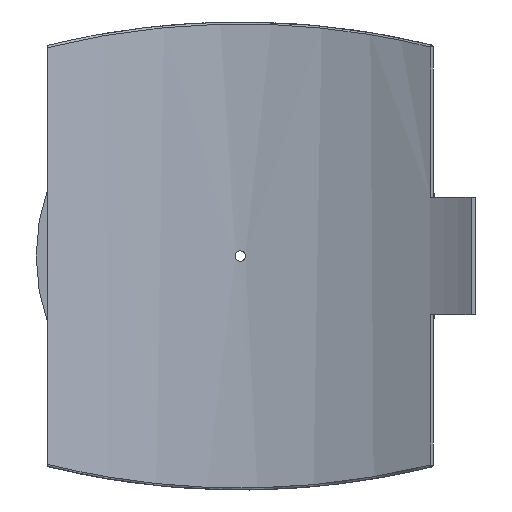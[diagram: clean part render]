
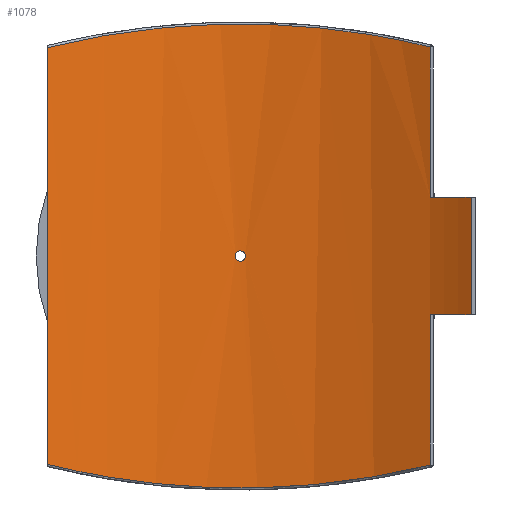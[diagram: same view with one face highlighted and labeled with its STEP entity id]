
A CAD part, front view. The second image highlights one B-rep face of the part: STEP entity #1078.
In plain terms, the highlighted cylindrical face has radius 400 mm (diameter 800 mm), a partial arc.
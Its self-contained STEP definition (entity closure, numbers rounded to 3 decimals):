
#55=FACE_BOUND('',#355,.T.);
#109=B_SPLINE_CURVE_WITH_KNOTS('',3,(#2213,#2214,#2215,#2216,#2217,#2218,
#2219,#2220,#2221,#2222),.UNSPECIFIED.,.F.,.F.,(4,1,1,1,1,1,1,4),(-45.909,
-40.108,-34.307,-28.506,-22.705,
-16.904,-11.103,-5.302),.UNSPECIFIED.);
#110=B_SPLINE_CURVE_WITH_KNOTS('',3,(#2231,#2232,#2233,#2234,#2235,#2236,
#2237,#2238,#2239,#2240),.UNSPECIFIED.,.F.,.F.,(4,1,1,1,1,1,1,4),(-42.171,
-36.37,-30.569,-24.768,-18.967,
-13.166,-7.364,-1.563),.UNSPECIFIED.);
#111=B_SPLINE_CURVE_WITH_KNOTS('',3,(#2243,#2244,#2245,#2246,#2247,#2248,
#2249,#2250,#2251,#2252),.UNSPECIFIED.,.F.,.F.,(4,2,2,2,4),(0.,0.196,
0.392,0.588,0.784),.UNSPECIFIED.);
#112=B_SPLINE_CURVE_WITH_KNOTS('',3,(#2253,#2254,#2255,#2256,#2257,#2258,
#2259,#2260,#2261,#2262,#2263,#2264,#2265,#2266,#2267,#2268,#2269,#2270,
#2271,#2272,#2273,#2274,#2275,#2276,#2277,#2278),.UNSPECIFIED.,.F.,.F.,
(4,2,2,2,2,2,2,2,2,2,2,2,4),(0.784,0.979,1.175,
1.371,1.567,1.763,1.959,2.155,
2.351,2.546,2.742,2.938,3.134),
 .UNSPECIFIED.);
#133=LINE('',#1615,#184);
#144=LINE('',#1902,#195);
#151=LINE('',#2227,#202);
#152=LINE('',#2230,#203);
#184=VECTOR('',#1292,10.);
#195=VECTOR('',#1331,10.);
#202=VECTOR('',#1368,10.);
#203=VECTOR('',#1371,10.);
#244=CYLINDRICAL_SURFACE('',#1175,400.);
#288=FACE_OUTER_BOUND('',#354,.T.);
#354=EDGE_LOOP('',(#839,#840,#841,#842,#843,#844,#845,#846));
#355=EDGE_LOOP('',(#847,#848));
#449=CIRCLE('',#1176,400.);
#450=CIRCLE('',#1177,400.);
#510=VERTEX_POINT('',#1606);
#513=VERTEX_POINT('',#1613);
#533=VERTEX_POINT('',#1895);
#536=VERTEX_POINT('',#1900);
#549=VERTEX_POINT('',#2199);
#550=VERTEX_POINT('',#2224);
#551=VERTEX_POINT('',#2226);
#552=VERTEX_POINT('',#2229);
#553=VERTEX_POINT('',#2241);
#554=VERTEX_POINT('',#2242);
#613=EDGE_CURVE('',#513,#510,#133,.T.);
#643=EDGE_CURVE('',#536,#533,#144,.T.);
#666=EDGE_CURVE('',#549,#536,#109,.T.);
#667=EDGE_CURVE('',#550,#513,#449,.T.);
#668=EDGE_CURVE('',#550,#551,#151,.T.);
#669=EDGE_CURVE('',#533,#551,#450,.T.);
#670=EDGE_CURVE('',#552,#549,#152,.T.);
#671=EDGE_CURVE('',#510,#552,#110,.T.);
#672=EDGE_CURVE('',#553,#554,#111,.T.);
#673=EDGE_CURVE('',#554,#553,#112,.T.);
#839=ORIENTED_EDGE('',*,*,#667,.F.);
#840=ORIENTED_EDGE('',*,*,#668,.T.);
#841=ORIENTED_EDGE('',*,*,#669,.F.);
#842=ORIENTED_EDGE('',*,*,#643,.F.);
#843=ORIENTED_EDGE('',*,*,#666,.F.);
#844=ORIENTED_EDGE('',*,*,#670,.F.);
#845=ORIENTED_EDGE('',*,*,#671,.F.);
#846=ORIENTED_EDGE('',*,*,#613,.F.);
#847=ORIENTED_EDGE('',*,*,#672,.T.);
#848=ORIENTED_EDGE('',*,*,#673,.T.);
#1078=ADVANCED_FACE('',(#288,#55),#244,.F.);
#1175=AXIS2_PLACEMENT_3D('',#2223,#1364,#1365);
#1176=AXIS2_PLACEMENT_3D('',#2225,#1366,#1367);
#1177=AXIS2_PLACEMENT_3D('',#2228,#1369,#1370);
#1292=DIRECTION('',(0.,0.,-1.));
#1331=DIRECTION('',(0.,0.,-1.));
#1364=DIRECTION('center_axis',(0.,0.,1.));
#1365=DIRECTION('ref_axis',(-1.,0.,0.));
#1366=DIRECTION('center_axis',(0.,0.,1.));
#1367=DIRECTION('ref_axis',(-0.579,-0.815,0.));
#1368=DIRECTION('',(0.,0.,1.));
#1369=DIRECTION('center_axis',(0.,0.,-1.));
#1370=DIRECTION('ref_axis',(-0.579,-0.815,0.));
#1371=DIRECTION('',(0.,0.,1.));
#1606=CARTESIAN_POINT('',(190.547,351.698,-209.932));
#1613=CARTESIAN_POINT('',(190.547,351.698,-58.75));
#1615=CARTESIAN_POINT('',(190.547,351.698,0.));
#1895=CARTESIAN_POINT('',(190.547,351.698,58.75));
#1900=CARTESIAN_POINT('',(190.547,351.698,209.932));
#1902=CARTESIAN_POINT('',(190.547,351.698,0.));
#2199=CARTESIAN_POINT('',(-193.5,350.082,209.2));
#2213=CARTESIAN_POINT('Ctrl Pts',(-193.5,350.082,209.2));
#2214=CARTESIAN_POINT('Ctrl Pts',(-177.046,359.177,213.309));
#2215=CARTESIAN_POINT('Ctrl Pts',(-142.701,375.127,220.768));
#2216=CARTESIAN_POINT('Ctrl Pts',(-87.802,391.657,228.83));
#2217=CARTESIAN_POINT('Ctrl Pts',(-30.678,400.217,233.108));
#2218=CARTESIAN_POINT('Ctrl Pts',(27.228,400.468,233.234));
#2219=CARTESIAN_POINT('Ctrl Pts',(84.439,392.396,229.196));
#2220=CARTESIAN_POINT('Ctrl Pts',(139.509,376.328,221.345));
#2221=CARTESIAN_POINT('Ctrl Pts',(174.007,360.66,213.995));
#2222=CARTESIAN_POINT('Ctrl Pts',(190.547,351.698,209.932));
#2223=CARTESIAN_POINT('Origin',(0.,0.,0.));
#2224=CARTESIAN_POINT('',(231.76,326.017,-58.75));
#2225=CARTESIAN_POINT('Origin',(0.,0.,
-58.75));
#2226=CARTESIAN_POINT('',(231.76,326.017,58.75));
#2227=CARTESIAN_POINT('',(231.76,326.017,0.));
#2228=CARTESIAN_POINT('Origin',(0.,0.,
58.75));
#2229=CARTESIAN_POINT('',(-193.5,350.082,-209.2));
#2230=CARTESIAN_POINT('',(-193.5,350.082,0.));
#2231=CARTESIAN_POINT('Ctrl Pts',(190.547,351.698,-209.932));
#2232=CARTESIAN_POINT('Ctrl Pts',(174.007,360.66,-213.995));
#2233=CARTESIAN_POINT('Ctrl Pts',(139.509,376.328,-221.345));
#2234=CARTESIAN_POINT('Ctrl Pts',(84.44,392.396,-229.197));
#2235=CARTESIAN_POINT('Ctrl Pts',(27.228,400.467,-233.234));
#2236=CARTESIAN_POINT('Ctrl Pts',(-30.678,400.218,-233.108));
#2237=CARTESIAN_POINT('Ctrl Pts',(-87.802,391.656,-228.829));
#2238=CARTESIAN_POINT('Ctrl Pts',(-142.701,375.127,-220.768));
#2239=CARTESIAN_POINT('Ctrl Pts',(-177.046,359.177,-213.309));
#2240=CARTESIAN_POINT('Ctrl Pts',(-193.5,350.082,-209.2));
#2241=CARTESIAN_POINT('',(5.2,399.966,0.));
#2242=CARTESIAN_POINT('',(0.,400.,-5.2));
#2243=CARTESIAN_POINT('Ctrl Pts',(5.2,399.966,0.));
#2244=CARTESIAN_POINT('Ctrl Pts',(5.2,399.966,-0.653));
#2245=CARTESIAN_POINT('Ctrl Pts',(5.07,399.968,-1.349));
#2246=CARTESIAN_POINT('Ctrl Pts',(4.539,399.974,-2.631));
#2247=CARTESIAN_POINT('Ctrl Pts',(4.139,399.979,-3.215));
#2248=CARTESIAN_POINT('Ctrl Pts',(3.215,399.987,-4.139));
#2249=CARTESIAN_POINT('Ctrl Pts',(2.631,399.992,-4.539));
#2250=CARTESIAN_POINT('Ctrl Pts',(1.349,399.998,-5.07));
#2251=CARTESIAN_POINT('Ctrl Pts',(0.653,400.,-5.2));
#2252=CARTESIAN_POINT('Ctrl Pts',(0.,400.,-5.2));
#2253=CARTESIAN_POINT('Ctrl Pts',(0.,400.,-5.2));
#2254=CARTESIAN_POINT('Ctrl Pts',(-0.653,400.,-5.2));
#2255=CARTESIAN_POINT('Ctrl Pts',(-1.349,399.998,-5.07));
#2256=CARTESIAN_POINT('Ctrl Pts',(-2.631,399.992,-4.539));
#2257=CARTESIAN_POINT('Ctrl Pts',(-3.215,399.987,-4.139));
#2258=CARTESIAN_POINT('Ctrl Pts',(-4.139,399.979,-3.215));
#2259=CARTESIAN_POINT('Ctrl Pts',(-4.539,399.974,-2.631));
#2260=CARTESIAN_POINT('Ctrl Pts',(-5.07,399.968,-1.349));
#2261=CARTESIAN_POINT('Ctrl Pts',(-5.2,399.966,-0.653));
#2262=CARTESIAN_POINT('Ctrl Pts',(-5.2,399.966,0.653));
#2263=CARTESIAN_POINT('Ctrl Pts',(-5.07,399.968,1.349));
#2264=CARTESIAN_POINT('Ctrl Pts',(-4.539,399.974,2.631));
#2265=CARTESIAN_POINT('Ctrl Pts',(-4.139,399.979,3.215));
#2266=CARTESIAN_POINT('Ctrl Pts',(-3.215,399.987,4.139));
#2267=CARTESIAN_POINT('Ctrl Pts',(-2.631,399.992,4.539));
#2268=CARTESIAN_POINT('Ctrl Pts',(-1.349,399.998,5.07));
#2269=CARTESIAN_POINT('Ctrl Pts',(-0.653,400.,5.2));
#2270=CARTESIAN_POINT('Ctrl Pts',(0.653,400.,5.2));
#2271=CARTESIAN_POINT('Ctrl Pts',(1.349,399.998,5.07));
#2272=CARTESIAN_POINT('Ctrl Pts',(2.631,399.992,4.539));
#2273=CARTESIAN_POINT('Ctrl Pts',(3.215,399.987,4.139));
#2274=CARTESIAN_POINT('Ctrl Pts',(4.139,399.979,3.215));
#2275=CARTESIAN_POINT('Ctrl Pts',(4.539,399.974,2.631));
#2276=CARTESIAN_POINT('Ctrl Pts',(5.07,399.968,1.349));
#2277=CARTESIAN_POINT('Ctrl Pts',(5.2,399.966,0.653));
#2278=CARTESIAN_POINT('Ctrl Pts',(5.2,399.966,0.));
